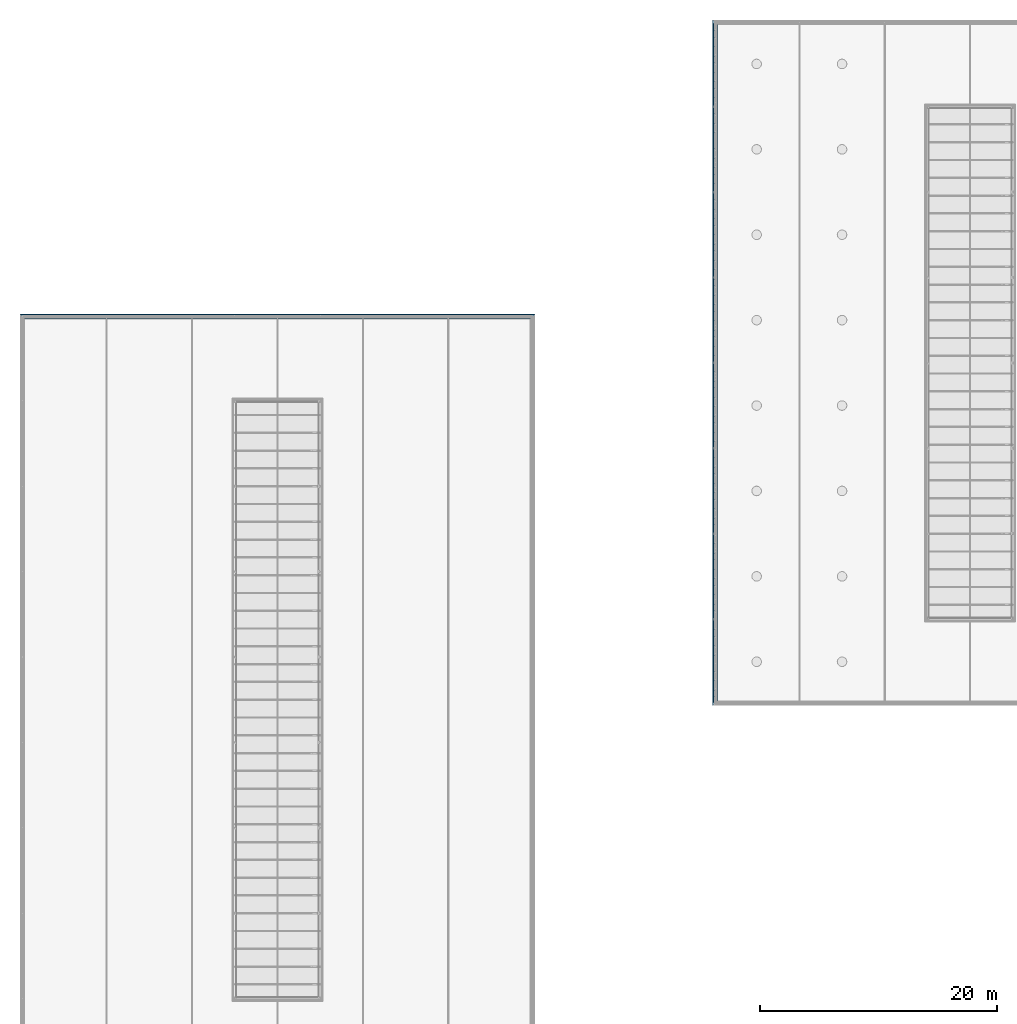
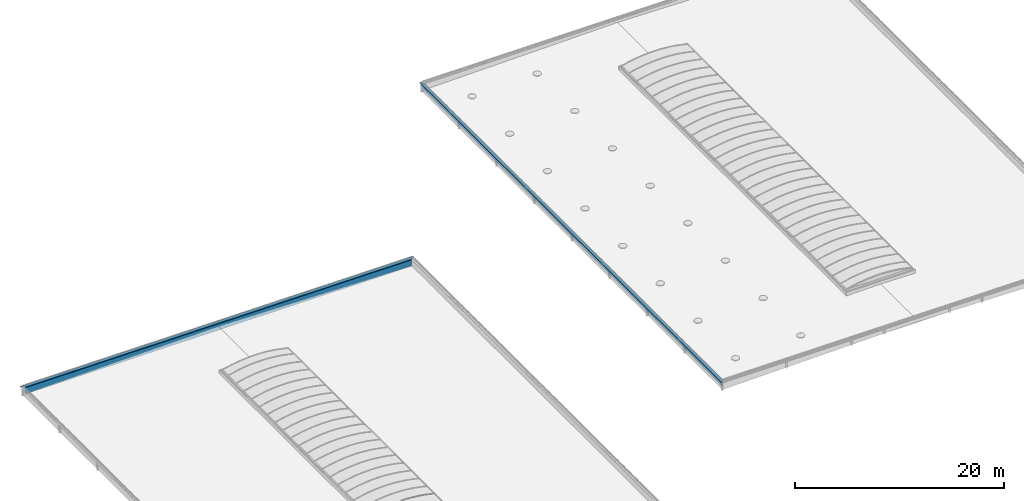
# One storey, part 59 of 81: 3 beams.
"""IFC2X3 building model written with IfcOpenShell, lengths in millimetres."""

from ifc_helpers import new_model, entity, si_unit, converted_unit, derived_unit, money_unit, direction, frame, origin_with_axes, place, context, subcontext, project, spatial, faceted_brep, material, material_list, type_object, element, save


model = new_model("IFC2X3")

# Units and contexts
model_context = context("Model", 3, precision=0.01, world=origin_with_axes(), true_north=direction((0.0, 1.0)))
body_context = subcontext(model_context, "Body", "Model", "MODEL_VIEW")
ifc_project = project(units=[si_unit("LENGTHUNIT", "METRE", prefix="MILLI"), si_unit("AREAUNIT", "SQUARE_METRE"), si_unit("VOLUMEUNIT", "CUBIC_METRE"), converted_unit("PLANEANGLEUNIT", "DEGREE", entity("IfcPlaneAngleMeasure", 0.0174532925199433), si_unit("PLANEANGLEUNIT", "RADIAN"), dimensions=[0, 0, 0, 0, 0, 0, 0]), money_unit("EUR"), converted_unit("TIMEUNIT", "Year", entity("IfcTimeMeasure", 31557600.0), si_unit("TIMEUNIT", "SECOND"), dimensions=[0, 0, 1, 0, 0, 0, 0]), si_unit("MASSUNIT", "GRAM", prefix="KILO"), si_unit("THERMODYNAMICTEMPERATUREUNIT", "DEGREE_CELSIUS"), si_unit("LUMINOUSINTENSITYUNIT", "LUMEN"), si_unit("ENERGYUNIT", "JOULE", prefix="MEGA"), derived_unit("THERMALCONDUCTANCEUNIT", [(si_unit("POWERUNIT", "WATT"), 1), (si_unit("LENGTHUNIT", "METRE"), -1), (si_unit("THERMODYNAMICTEMPERATUREUNIT", "KELVIN"), -1)]), derived_unit("SPECIFICHEATCAPACITYUNIT", [(si_unit("ENERGYUNIT", "JOULE"), 1), (si_unit("MASSUNIT", "GRAM", prefix="KILO"), -1), (si_unit("THERMODYNAMICTEMPERATUREUNIT", "KELVIN"), -1)]), derived_unit("MASSDENSITYUNIT", [(si_unit("MASSUNIT", "GRAM", prefix="KILO"), 1), (si_unit("VOLUMEUNIT", "CUBIC_METRE"), -1)])], contexts=[model_context])

# Site, building, storey
site_placement = place(None, origin_with_axes())
site = spatial("IfcSite", under=ifc_project, at=site_placement, Name="Site", CompositionType="ELEMENT")
building_placement = place(site_placement, origin_with_axes())
building = spatial("IfcBuilding", under=site, at=building_placement, Name="Naam gebouw", CompositionType="ELEMENT")
storey_placement = place(building_placement, frame((0.0, 0.0, 15320.0), z_axis=(0.0, 0.0, 1.0), x_axis=(1.0, 0.0, 0.0)))
storey = spatial("IfcBuildingStorey", under=building, at=storey_placement, Name="01 dak", CompositionType="ELEMENT", Elevation=15320.0)

# Beams
ifc_material_1 = material(Name="Metaal - Staal AFW")
beam_type_1 = type_object("IfcBeamType", Name="HEA balk 27", PredefinedType="BEAM")
beam_1_placement = place(storey_placement, frame((83852.0, 62160.0, 574.960640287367), z_axis=(0.0, 0.0, 1.0), x_axis=(0.0, -1.0, 0.0)))
element("IfcBeam", 1, at=beam_1_placement, inside=storey, type_object=beam_type_1, material=ifc_material_1, Name="HEA160", ObjectType="BEAM", context=body_context, shape_type="Brep", body=[
    faceted_brep([(0.0, 0.0, -80.0), (-57280.00000000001, 0.0, -79.99999999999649), (-57280.00000000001, 0.0, 80.00000000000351), (0.0, 0.0, 80.0), (0.0, -9.000000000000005, -80.0), (-57280.00000000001, -9.000000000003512, -79.99999999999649), (-57280.00000000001, -9.00000000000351, -17.99999999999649), (-57280.00000000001, -9.288220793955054, -15.07364516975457), (-57280.00000000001, -10.14180701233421, -12.25974851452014), (-57280.00000000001, -11.52795581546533, -9.66644650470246), (-57280.00000000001, -13.3933982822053, -7.393398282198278), (-57280.00000000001, -15.66644650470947, -5.527955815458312), (-57280.00000000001, -18.25974851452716, -4.14180701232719), (-57280.00000000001, -21.07364516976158, -3.288220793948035), (-57280.00000000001, -24.00000000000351, -2.999999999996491), (-57280.00000000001, -128.0000000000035, -2.999999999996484), (-57280.00000000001, -130.9263548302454, -3.288220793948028), (-57280.00000000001, -133.7402514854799, -4.141807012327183), (-57280.00000000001, -136.3335534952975, -5.527955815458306), (-57280.00000000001, -138.6066017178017, -7.393398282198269), (-57280.00000000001, -140.4720441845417, -9.666446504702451), (-57280.00000000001, -141.8581929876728, -12.25974851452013), (-57280.00000000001, -142.711779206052, -15.07364516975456), (-57280.00000000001, -143.0000000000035, -17.99999999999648), (-57280.00000000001, -143.0000000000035, -79.99999999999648), (-57280.00000000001, -152.0000000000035, -79.99999999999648), (-57280.00000000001, -152.0000000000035, 80.00000000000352), (-57280.00000000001, -143.0000000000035, 80.00000000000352), (-57280.00000000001, -143.0000000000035, 18.00000000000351), (-57280.00000000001, -142.711779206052, 15.07364516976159), (-57280.00000000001, -141.8581929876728, 12.25974851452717), (-57280.00000000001, -140.4720441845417, 9.666446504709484), (-57280.00000000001, -138.6066017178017, 7.393398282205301), (-57280.00000000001, -136.3335534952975, 5.527955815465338), (-57280.00000000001, -133.7402514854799, 4.141807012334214), (-57280.00000000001, -130.9263548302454, 3.288220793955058), (-57280.00000000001, -128.0000000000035, 3.000000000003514), (-57280.00000000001, -24.00000000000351, 3.000000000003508), (-57280.00000000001, -21.07364516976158, 3.288220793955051), (-57280.00000000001, -18.25974851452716, 4.141807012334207), (-57280.00000000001, -15.66644650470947, 5.527955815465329), (-57280.00000000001, -13.3933982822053, 7.393398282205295), (-57280.00000000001, -11.52795581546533, 9.666446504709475), (-57280.00000000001, -10.14180701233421, 12.25974851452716), (-57280.00000000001, -9.28822079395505, 15.07364516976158), (-57280.00000000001, -9.000000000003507, 18.00000000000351), (-57280.00000000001, -9.000000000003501, 80.00000000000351), (0.0, -8.999999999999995, 80.0), (0.0, -9.0, 18.0), (0.0, -9.288220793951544, 15.07364516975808), (0.0, -10.1418070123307, 12.25974851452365), (0.0, -11.52795581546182, 9.666446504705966), (0.0, -13.39339828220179, 7.393398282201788), (0.0, -15.66644650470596, 5.527955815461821), (0.0, -18.25974851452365, 4.141807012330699), (0.0, -21.07364516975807, 3.288220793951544), (0.0, -24.0, 3.0), (0.0, -128.0, 3.000000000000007), (0.0, -130.9263548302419, 3.288220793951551), (0.0, -133.7402514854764, 4.141807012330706), (0.0, -136.333553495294, 5.527955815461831), (0.0, -138.6066017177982, 7.393398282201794), (0.0, -140.4720441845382, 9.666446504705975), (0.0, -141.8581929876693, 12.25974851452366), (0.0, -142.7117792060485, 15.07364516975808), (0.0, -143.0, 18.00000000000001), (0.0, -143.0, 80.00000000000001), (0.0, -152.0, 80.00000000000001), (0.0, -152.0, -79.99999999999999), (0.0, -143.0, -79.99999999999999), (0.0, -143.0, -17.99999999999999), (0.0, -142.7117792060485, -15.07364516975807), (0.0, -141.8581929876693, -12.25974851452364), (0.0, -140.4720441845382, -9.666446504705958), (0.0, -138.6066017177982, -7.393398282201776), (0.0, -136.333553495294, -5.527955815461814), (0.0, -133.7402514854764, -4.14180701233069), (0.0, -130.9263548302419, -3.288220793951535), (0.0, -128.0, -2.999999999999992), (0.0, -24.0, -2.999999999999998), (0.0, -21.07364516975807, -3.288220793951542), (0.0, -18.25974851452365, -4.141807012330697), (0.0, -15.66644650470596, -5.527955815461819), (0.0, -13.39339828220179, -7.393398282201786), (0.0, -11.52795581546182, -9.666446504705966), (0.0, -10.1418070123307, -12.25974851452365), (0.0, -9.288220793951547, -15.07364516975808), (0.0, -9.000000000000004, -18.0)], [[[0, 1, 2, 3]], [[4, 5, 1, 0]], [[1, 5, 6, 7, 8, 9, 10, 11, 12, 13, 14, 15, 16, 17, 18, 19, 20, 21, 22, 23, 24, 25, 26, 27, 28, 29, 30, 31, 32, 33, 34, 35, 36, 37, 38, 39, 40, 41, 42, 43, 44, 45, 46, 2]], [[3, 2, 46, 47]], [[0, 3, 47, 48, 49, 50, 51, 52, 53, 54, 55, 56, 57, 58, 59, 60, 61, 62, 63, 64, 65, 66, 67, 68, 69, 70, 71, 72, 73, 74, 75, 76, 77, 78, 79, 80, 81, 82, 83, 84, 85, 86, 87, 4]], [[87, 6, 5, 4]], [[86, 7, 6, 87]], [[85, 8, 7, 86]], [[84, 9, 8, 85]], [[83, 10, 9, 84]], [[82, 11, 10, 83]], [[81, 12, 11, 82]], [[80, 13, 12, 81]], [[79, 14, 13, 80]], [[78, 15, 14, 79]], [[77, 16, 15, 78]], [[76, 17, 16, 77]], [[75, 18, 17, 76]], [[74, 19, 18, 75]], [[73, 20, 19, 74]], [[72, 21, 20, 73]], [[71, 22, 21, 72]], [[70, 23, 22, 71]], [[69, 24, 23, 70]], [[68, 25, 24, 69]], [[67, 26, 25, 68]], [[66, 27, 26, 67]], [[65, 28, 27, 66]], [[64, 29, 28, 65]], [[63, 30, 29, 64]], [[62, 31, 30, 63]], [[61, 32, 31, 62]], [[60, 33, 32, 61]], [[59, 34, 33, 60]], [[58, 35, 34, 59]], [[57, 36, 35, 58]], [[56, 37, 36, 57]], [[55, 38, 37, 56]], [[54, 39, 38, 55]], [[53, 40, 39, 54]], [[52, 41, 40, 53]], [[51, 42, 41, 52]], [[50, 43, 42, 51]], [[49, 44, 43, 50]], [[48, 45, 44, 49]], [[47, 46, 45, 48]]]),
])
ifc_material_2 = material(Name="Membraan - dampdicht")
ifc_material_3 = material(Name="Metaal - Titanium zink")
ifc_material_list = material_list([ifc_material_2, ifc_material_3])
beam_type_2 = type_object("IfcBeamType", Name="Muurafdekker_210 394 x 841", PredefinedType="BEAM")
beam_2_placement = place(storey_placement, frame((25299.99999999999, 94800.00000000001, 645.0108944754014), z_axis=(0.0, 0.0, 1.0), x_axis=(0.0, -1.0, 0.0)))
element("IfcBeam", 2, at=beam_2_placement, inside=storey, type_object=beam_type_2, material=ifc_material_list, Name="dakkap", ObjectType="BEAM", context=body_context, shape_type="Brep", body=[
    faceted_brep([(252.0000000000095, 42947.99999999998, 7.21089447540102), (252.0000000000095, 42947.99999999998, -806.4411900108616), (252.0000000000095, 252.000000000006, -806.4411900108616), (252.0000000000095, 252.000000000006, 7.21089447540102), (254.0000000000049, 42945.99999999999, 7.21089447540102), (254.0000000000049, 42945.99999999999, -806.4411900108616), (254.0000000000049, 254.0000000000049, -806.4411900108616), (254.0000000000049, 254.0000000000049, 7.21089447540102)], [[[0, 1, 2, 3]], [[0, 4, 5, 1]], [[1, 5, 6, 2]], [[3, 2, 6, 7]], [[4, 0, 3, 7]], [[5, 4, 7, 6]]]),
    faceted_brep([(-105.000000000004, -105.0000000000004, 7.30000000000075), (-105.000000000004, 43304.99999999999, 7.30000000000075), (-104.2673779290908, 43304.26737792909, 5.531844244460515), (-104.2673779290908, -104.2673779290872, 5.531844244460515), (-105.000000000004, -105.0000000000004, 32.31089447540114), (-105.000000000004, 43304.99999999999, 32.31089447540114), (-104.3675626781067, 43304.36756267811, 33.97288413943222), (-102.7902322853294, 43302.79023228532, 34.79399036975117), (-101.0660589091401, 43301.06605890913, 34.35877458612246), (-79.99022734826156, 43279.99022734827, 19.60131845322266), (-79.70672514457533, 43279.70672514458, 19.5109160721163), (270.2494811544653, 42929.75051884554, 17.21089447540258), (271.6834222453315, 42928.31657775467, 16.75877458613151), (272.5987127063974, 42927.40128729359, 15.56594483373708), (288.3554032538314, 42911.64459674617, -27.72520665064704), (288.2719411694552, 42911.72805883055, -29.63680266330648), (286.8612220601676, 42913.13877793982, -30.92948856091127), (275.1150643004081, 42924.88493569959, -35.20474035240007), (274.4310240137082, 42925.56897598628, -33.32535511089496), (286.1771817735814, 42913.82281822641, -29.05010331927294), (286.4593255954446, 42913.54067440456, -28.79156613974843), (286.4760180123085, 42913.52398198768, -28.40924693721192), (270.7193274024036, 42929.2806725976, 14.88190471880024), (270.5376117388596, 42929.46238826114, 15.11952092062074), (270.2527665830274, 42929.74723341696, 15.21087341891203), (-79.70343913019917, 43279.7034391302, 17.51089447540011), (-81.13738022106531, 43281.13738022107, 17.96301436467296), (-102.2132117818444, 43302.21321178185, 32.72047049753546), (-102.5580464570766, 43302.55804645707, 32.80751365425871), (-102.8735125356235, 43302.87351253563, 32.64329240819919), (-102.9999999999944, 43303.0, 32.31089447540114), (-102.9999999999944, 43303.0, 7.30000000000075), (-102.853483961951, 43302.85348396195, 6.946377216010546), (-102.499803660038, 43302.49980366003, 6.800000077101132), (-49.99999999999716, 43250.0, 6.823967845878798), (-49.99999999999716, 43250.0, -13.1803899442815), (-52.00000000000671, 43251.99999999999, -13.1803899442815), (-52.00000000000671, 43251.99999999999, 4.822224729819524), (-102.4988997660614, 43302.49889976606, 4.800000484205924), (-102.4988997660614, -102.4988997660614, 4.800000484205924), (-52.00000000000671, -51.9999999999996, 4.822224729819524), (-52.00000000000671, -51.9999999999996, -13.1803899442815), (-49.99999999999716, -50.00000000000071, -13.1803899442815), (-49.99999999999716, -50.00000000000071, 6.823967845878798), (-102.499803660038, -102.4998036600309, 6.800000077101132), (-102.853483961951, -102.853483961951, 6.946377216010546), (-102.9999999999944, -102.999999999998, 7.30000000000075), (-102.9999999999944, -102.999999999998, 32.31089447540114), (-102.8735125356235, -102.8735125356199, 32.64329240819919), (-102.5580464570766, -102.558046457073, 32.80751365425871), (-102.2132117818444, -102.2132117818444, 32.72047049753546), (-81.13738022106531, -81.13738022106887, 17.96301436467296), (-79.70343913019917, -79.70343913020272, 17.51089447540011), (270.2527665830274, 270.2527665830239, 15.21087341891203), (270.5376117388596, 270.5376117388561, 15.11952092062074), (270.7193274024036, 270.7193274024, 14.88190471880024), (286.4760180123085, 286.4760180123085, -28.40924693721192), (286.4593255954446, 286.4593255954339, -28.79156613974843), (286.1771817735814, 286.1771817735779, -29.05010331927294), (274.4310240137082, 274.4310240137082, -33.32535511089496), (275.1150643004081, 275.1150643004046, -35.20474035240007), (286.8612220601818, 286.8612220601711, -30.92948856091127), (288.2719411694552, 288.2719411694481, -29.63680266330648), (288.3554032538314, 288.3554032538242, -27.72520665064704), (272.5987127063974, 272.5987127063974, 15.56594483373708), (271.6834222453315, 271.6834222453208, 16.75877458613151), (270.2494811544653, 270.2494811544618, 17.21089447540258), (-79.70672514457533, -79.70672514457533, 19.5109160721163), (-79.99022734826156, -79.99022734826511, 19.60131845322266), (-101.0660589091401, -101.066058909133, 34.35877458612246), (-102.7902322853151, -102.7902322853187, 34.79399036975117), (-104.3675626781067, -104.3675626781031, 33.97288413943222)], [[[0, 1, 2, 3]], [[4, 5, 1, 0]], [[2, 1, 5, 6, 7, 8, 9, 10, 11, 12, 13, 14, 15, 16, 17, 18, 19, 20, 21, 22, 23, 24, 25, 26, 27, 28, 29, 30, 31, 32, 33, 34, 35, 36, 37, 38]], [[3, 2, 38, 39]], [[4, 0, 3, 39, 40, 41, 42, 43, 44, 45, 46, 47, 48, 49, 50, 51, 52, 53, 54, 55, 56, 57, 58, 59, 60, 61, 62, 63, 64, 65, 66, 67, 68, 69, 70, 71]], [[71, 6, 5, 4]], [[70, 7, 6, 71]], [[69, 8, 7, 70]], [[68, 9, 8, 69]], [[67, 10, 9, 68]], [[66, 11, 10, 67]], [[65, 12, 11, 66]], [[64, 13, 12, 65]], [[63, 14, 13, 64]], [[62, 15, 14, 63]], [[61, 16, 15, 62]], [[60, 17, 16, 61]], [[59, 18, 17, 60]], [[58, 19, 18, 59]], [[57, 20, 19, 58]], [[56, 21, 20, 57]], [[55, 22, 21, 56]], [[54, 23, 22, 55]], [[53, 24, 23, 54]], [[52, 25, 24, 53]], [[51, 26, 25, 52]], [[50, 27, 26, 51]], [[49, 28, 27, 50]], [[48, 29, 28, 49]], [[47, 30, 29, 48]], [[46, 31, 30, 47]], [[45, 32, 31, 46]], [[44, 33, 32, 45]], [[43, 34, 33, 44]], [[42, 35, 34, 43]], [[41, 36, 35, 42]], [[40, 37, 36, 41]], [[39, 38, 37, 40]]]),
])
beam_3_placement = place(storey_placement, frame((83699.99999999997, 62000.0, 645.0108944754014), z_axis=(0.0, 0.0, 1.0), x_axis=(1.0, 0.0, 0.0)))
element("IfcBeam", 3, at=beam_3_placement, inside=storey, type_object=beam_type_2, material=ifc_material_list, Name="dakkap", ObjectType="BEAM", context=body_context, shape_type="Brep", body=[
    faceted_brep([(252.0000000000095, 57347.99999999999, 7.21089447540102), (252.0000000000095, 57347.99999999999, -806.4411900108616), (252.0000000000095, 252.0000000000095, -806.4411900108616), (252.0000000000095, 252.0000000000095, 7.21089447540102), (254.0000000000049, 57345.99999999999, 7.21089447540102), (254.0000000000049, 57345.99999999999, -806.4411900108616), (254.0000000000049, 254.0000000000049, -806.4411900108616), (254.0000000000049, 254.0000000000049, 7.21089447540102)], [[[0, 1, 2, 3]], [[0, 4, 5, 1]], [[1, 5, 6, 2]], [[3, 2, 6, 7]], [[4, 0, 3, 7]], [[5, 4, 7, 6]]]),
    faceted_brep([(-105.000000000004, -104.9999999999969, 7.30000000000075), (-105.000000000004, 57705.00000000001, 7.30000000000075), (-104.2673779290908, 57704.26737792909, 5.531844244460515), (-104.2673779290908, -104.2673779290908, 5.531844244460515), (-105.000000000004, -104.9999999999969, 32.31089447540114), (-105.000000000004, 57705.00000000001, 32.31089447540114), (-104.3675626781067, 57704.36756267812, 33.97288413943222), (-102.7902322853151, 57702.79023228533, 34.79399036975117), (-101.0660589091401, 57701.06605890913, 34.35877458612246), (-79.99022734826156, 57679.99022734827, 19.60131845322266), (-79.70672514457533, 57679.70672514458, 19.5109160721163), (270.2494811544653, 57329.75051884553, 17.21089447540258), (271.6834222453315, 57328.31657775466, 16.75877458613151), (272.5987127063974, 57327.40128729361, 15.56594483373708), (288.3554032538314, 57311.64459674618, -27.72520665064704), (288.2719411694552, 57311.72805883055, -29.63680266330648), (286.8612220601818, 57313.13877793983, -30.92948856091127), (275.1150643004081, 57324.88493569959, -35.20474035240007), (274.4310240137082, 57325.5689759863, -33.32535511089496), (286.1771817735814, 57313.82281822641, -29.05010331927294), (286.4593255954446, 57313.54067440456, -28.79156613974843), (286.4760180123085, 57313.52398198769, -28.40924693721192), (270.7193274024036, 57329.2806725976, 14.88190471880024), (270.5376117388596, 57329.46238826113, 15.11952092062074), (270.2527665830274, 57329.74723341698, 15.21087341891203), (-79.70343913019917, 57679.70343913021, 17.51089447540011), (-81.13738022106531, 57681.13738022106, 17.96301436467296), (-102.2132117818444, 57702.21321178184, 32.72047049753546), (-102.5580464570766, 57702.55804645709, 32.80751365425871), (-102.8735125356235, 57702.87351253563, 32.64329240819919), (-102.9999999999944, 57703.0, 32.31089447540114), (-102.9999999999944, 57703.0, 7.30000000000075), (-102.853483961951, 57702.85348396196, 6.946377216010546), (-102.499803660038, 57702.49980366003, 6.800000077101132), (-49.99999999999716, 57650.00000000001, 6.823967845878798), (-49.99999999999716, 57650.00000000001, -13.1803899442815), (-52.00000000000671, 57652.0, -13.1803899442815), (-52.00000000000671, 57652.0, 4.822224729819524), (-102.4988997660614, 57702.49889976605, 4.800000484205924), (-102.4988997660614, -102.4988997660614, 4.800000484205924), (-52.00000000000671, -51.9999999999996, 4.822224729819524), (-52.00000000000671, -51.9999999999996, -13.1803899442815), (-49.99999999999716, -49.99999999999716, -13.1803899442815), (-49.99999999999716, -49.99999999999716, 6.823967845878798), (-102.499803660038, -102.4998036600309, 6.800000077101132), (-102.853483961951, -102.853483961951, 6.946377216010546), (-102.9999999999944, -102.9999999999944, 7.30000000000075), (-102.9999999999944, -102.9999999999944, 32.31089447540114), (-102.8735125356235, -102.8735125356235, 32.64329240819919), (-102.5580464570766, -102.5580464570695, 32.80751365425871), (-102.2132117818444, -102.2132117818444, 32.72047049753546), (-81.13738022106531, -81.13738022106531, 17.96301436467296), (-79.70343913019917, -79.70343913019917, 17.51089447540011), (270.2527665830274, 270.2527665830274, 15.21087341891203), (270.5376117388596, 270.5376117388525, 15.11952092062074), (270.7193274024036, 270.7193274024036, 14.88190471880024), (286.4760180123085, 286.4760180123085, -28.40924693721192), (286.4593255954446, 286.4593255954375, -28.79156613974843), (286.1771817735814, 286.1771817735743, -29.05010331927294), (274.4310240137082, 274.4310240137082, -33.32535511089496), (275.1150643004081, 275.1150643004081, -35.20474035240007), (286.8612220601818, 286.8612220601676, -30.92948856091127), (288.2719411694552, 288.2719411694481, -29.63680266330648), (288.3554032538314, 288.3554032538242, -27.72520665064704), (272.5987127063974, 272.5987127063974, 15.56594483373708), (271.6834222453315, 271.6834222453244, 16.75877458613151), (270.2494811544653, 270.2494811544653, 17.21089447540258), (-79.70672514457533, -79.70672514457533, 19.5109160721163), (-79.99022734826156, -79.99022734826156, 19.60131845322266), (-101.0660589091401, -101.066058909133, 34.35877458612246), (-102.7902322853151, -102.7902322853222, 34.79399036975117), (-104.3675626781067, -104.3675626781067, 33.97288413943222)], [[[0, 1, 2, 3]], [[4, 5, 1, 0]], [[2, 1, 5, 6, 7, 8, 9, 10, 11, 12, 13, 14, 15, 16, 17, 18, 19, 20, 21, 22, 23, 24, 25, 26, 27, 28, 29, 30, 31, 32, 33, 34, 35, 36, 37, 38]], [[3, 2, 38, 39]], [[4, 0, 3, 39, 40, 41, 42, 43, 44, 45, 46, 47, 48, 49, 50, 51, 52, 53, 54, 55, 56, 57, 58, 59, 60, 61, 62, 63, 64, 65, 66, 67, 68, 69, 70, 71]], [[71, 6, 5, 4]], [[70, 7, 6, 71]], [[69, 8, 7, 70]], [[68, 9, 8, 69]], [[67, 10, 9, 68]], [[66, 11, 10, 67]], [[65, 12, 11, 66]], [[64, 13, 12, 65]], [[63, 14, 13, 64]], [[62, 15, 14, 63]], [[61, 16, 15, 62]], [[60, 17, 16, 61]], [[59, 18, 17, 60]], [[58, 19, 18, 59]], [[57, 20, 19, 58]], [[56, 21, 20, 57]], [[55, 22, 21, 56]], [[54, 23, 22, 55]], [[53, 24, 23, 54]], [[52, 25, 24, 53]], [[51, 26, 25, 52]], [[50, 27, 26, 51]], [[49, 28, 27, 50]], [[48, 29, 28, 49]], [[47, 30, 29, 48]], [[46, 31, 30, 47]], [[45, 32, 31, 46]], [[44, 33, 32, 45]], [[43, 34, 33, 44]], [[42, 35, 34, 43]], [[41, 36, 35, 42]], [[40, 37, 36, 41]], [[39, 38, 37, 40]]]),
])

save(model, "model.ifc")
